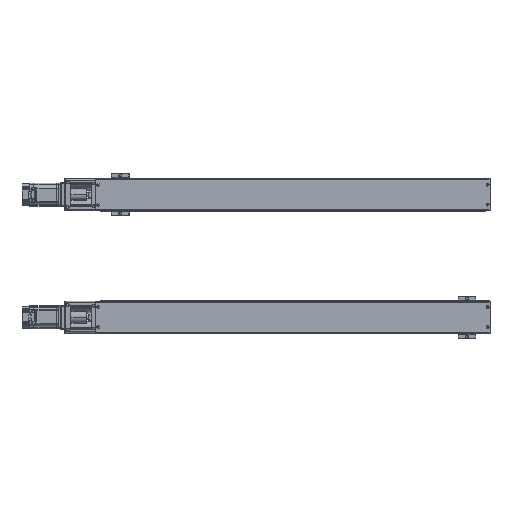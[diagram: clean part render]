
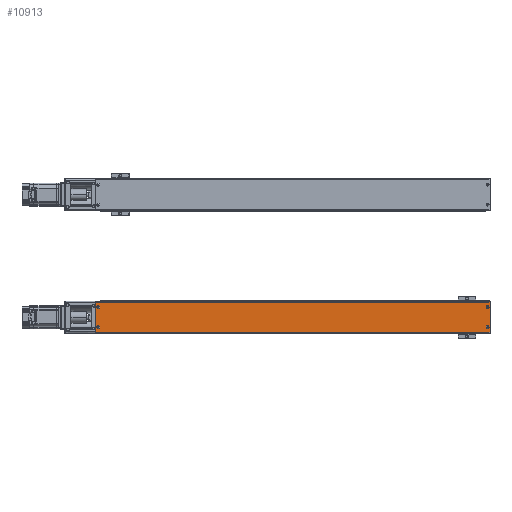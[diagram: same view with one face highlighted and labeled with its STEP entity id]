
A CAD part, top view. The second image highlights one B-rep face of the part: STEP entity #10913.
In plain terms, the highlighted planar face has unit normal (0, 0, 1).
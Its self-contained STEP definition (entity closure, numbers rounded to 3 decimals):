
#10913=ADVANCED_FACE('',(#22897),#22898,.T.);
#22897=FACE_OUTER_BOUND('',#44232,.T.);
#22898=PLANE('',#44233);
#44232=EDGE_LOOP('',(#76645,#76646,#76647,#76648));
#44233=AXIS2_PLACEMENT_3D('',#76649,#76650,#76651);
#76645=ORIENTED_EDGE('',*,*,#90477,.T.);
#76646=ORIENTED_EDGE('',*,*,#95245,.F.);
#76647=ORIENTED_EDGE('',*,*,#101880,.T.);
#76648=ORIENTED_EDGE('',*,*,#99472,.F.);
#76649=CARTESIAN_POINT('',(-49.88,-1045.19,-6.33));
#76650=DIRECTION('',(0.0,-0.0,1.0));
#76651=DIRECTION('',(1.0,0.,0.0));
#90477=EDGE_CURVE('',#105419,#105417,#105420,.T.);
#95245=EDGE_CURVE('',#113489,#105417,#113491,.T.);
#99472=EDGE_CURVE('',#105419,#119701,#119702,.T.);
#101880=EDGE_CURVE('',#113489,#119701,#122779,.T.);
#105417=VERTEX_POINT('',#126672);
#105419=VERTEX_POINT('',#126674);
#105420=LINE('',#126675,#126676);
#113489=VERTEX_POINT('',#137024);
#113491=LINE('',#137026,#137027);
#119701=VERTEX_POINT('',#145177);
#119702=LINE('',#145178,#145179);
#122779=LINE('',#149452,#149453);
#126672=CARTESIAN_POINT('',(67.62,-1081.69,-6.33));
#126674=CARTESIAN_POINT('',(67.62,-1008.69,-6.33));
#126675=CARTESIAN_POINT('',(67.62,-1041.94,-6.33));
#126676=VECTOR('',#154134,1.0);
#137024=CARTESIAN_POINT('',(1031.62,-1081.69,-6.33));
#137026=CARTESIAN_POINT('',(550.12,-1081.69,-6.33));
#137027=VECTOR('',#161771,1.0);
#145177=CARTESIAN_POINT('',(1031.62,-1008.69,-6.33));
#145178=CARTESIAN_POINT('',(550.12,-1008.69,-6.33));
#145179=VECTOR('',#168234,1.0);
#149452=CARTESIAN_POINT('',(1031.62,-1045.19,-6.33));
#149453=VECTOR('',#171585,1.0);
#154134=DIRECTION('',(0.0,-1.0,0.0));
#161771=DIRECTION('',(-1.0,0.,0.0));
#168234=DIRECTION('',(1.0,0.,0.0));
#171585=DIRECTION('',(0.,1.0,0.));
